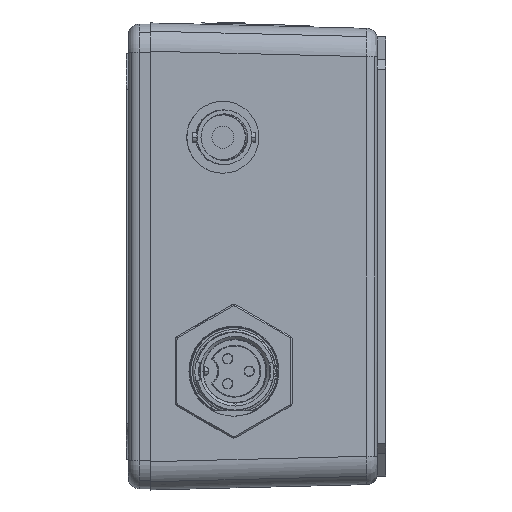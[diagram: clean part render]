
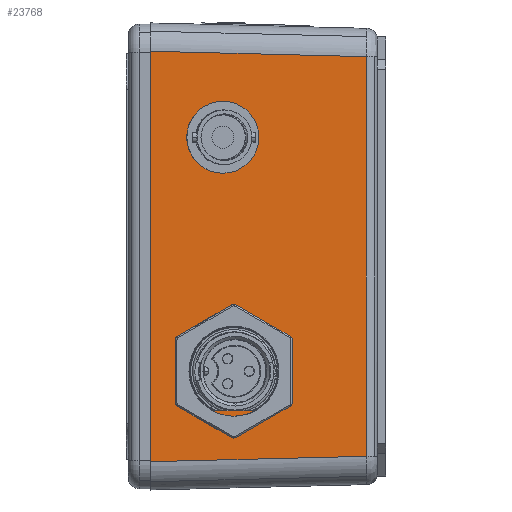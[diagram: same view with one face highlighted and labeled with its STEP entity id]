
A CAD part, left-side view. The second image highlights one B-rep face of the part: STEP entity #23768.
In plain terms, the highlighted planar face has unit normal (-1, -0.025, 0) as drawn and (-1, 0, -0.025) by its records, which use the part's own axes.
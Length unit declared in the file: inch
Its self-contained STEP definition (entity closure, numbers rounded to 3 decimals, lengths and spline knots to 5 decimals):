
#39 = VERTEX_POINT ( 'NONE', #4448 ) ;
#240 = CARTESIAN_POINT ( 'NONE',  ( -2.16085, 0.79705, -0.57482 ) ) ;
#370 = CARTESIAN_POINT ( 'NONE',  ( -2.16858, 0.79705, -0.26492 ) ) ;
#405 = DIRECTION ( 'NONE',  ( -0.025, 0.025, 0.999 ) ) ;
#815 = EDGE_CURVE ( 'NONE', #21775, #13680, #2399, .T. ) ;
#1356 = DIRECTION ( 'NONE',  ( 0.025, 0.025, -0.999 ) ) ;
#2399 = CIRCLE ( 'NONE', #10780, 0.31 ) ;
#2491 = AXIS2_PLACEMENT_3D ( 'NONE', #26995, #6699, #30417 ) ;
#2614 = ORIENTED_EDGE ( 'NONE', *, *, #42794, .F. ) ;
#2907 = CARTESIAN_POINT ( 'NONE',  ( -2.16085, 0.79705, -0.57482 ) ) ;
#4448 = CARTESIAN_POINT ( 'NONE',  ( -2.1378, -1.38786, -1.49803 ) ) ;
#5214 = FACE_BOUND ( 'NONE', #29875, .T. ) ;
#5657 = LINE ( 'NONE', #37288, #40667 ) ;
#6302 = DIRECTION ( 'NONE',  ( -0.025, 0., 1. ) ) ;
#6699 = DIRECTION ( 'NONE',  ( -1., 0., -0.025 ) ) ;
#7282 = CIRCLE ( 'NONE', #43181, 0.21875 ) ;
#7437 = ORIENTED_EDGE ( 'NONE', *, *, #27861, .F. ) ;
#8796 = EDGE_CURVE ( 'NONE', #16659, #27727, #39642, .T. ) ;
#8801 = CARTESIAN_POINT ( 'NONE',  ( -2.16442, 1.07205, -0.43177 ) ) ;
#9617 = LINE ( 'NONE', #8801, #43577 ) ;
#10693 = VERTEX_POINT ( 'NONE', #33523 ) ;
#10780 = AXIS2_PLACEMENT_3D ( 'NONE', #240, #43303, #38711 ) ;
#10866 = VERTEX_POINT ( 'NONE', #17330 ) ;
#11563 = LINE ( 'NONE', #37128, #29609 ) ;
#11802 = ORIENTED_EDGE ( 'NONE', *, *, #43293, .F. ) ;
#13076 = ORIENTED_EDGE ( 'NONE', *, *, #14070, .T. ) ;
#13680 = VERTEX_POINT ( 'NONE', #28085 ) ;
#14070 = EDGE_CURVE ( 'NONE', #21447, #32552, #11563, .T. ) ;
#14861 = CARTESIAN_POINT ( 'NONE',  ( -2.15728, 1.07205, -0.71787 ) ) ;
#14930 = EDGE_CURVE ( 'NONE', #21447, #32552, #7282, .T. ) ;
#14961 = ORIENTED_EDGE ( 'NONE', *, *, #28695, .F. ) ;
#15645 = ORIENTED_EDGE ( 'NONE', *, *, #815, .F. ) ;
#16195 = AXIS2_PLACEMENT_3D ( 'NONE', #33910, #16993, #40714 ) ;
#16659 = VERTEX_POINT ( 'NONE', #370 ) ;
#16939 = CARTESIAN_POINT ( 'NONE',  ( -2.1752, -1.62205, 0. ) ) ;
#16989 = DIRECTION ( 'NONE',  ( -1., 0., -0.025 ) ) ;
#16993 = DIRECTION ( 'NONE',  ( -1., 0., -0.025 ) ) ;
#17091 = EDGE_CURVE ( 'NONE', #10866, #10693, #36896, .T. ) ;
#17330 = CARTESIAN_POINT ( 'NONE',  ( -2.1752, -1.42526, 0. ) ) ;
#18108 = CARTESIAN_POINT ( 'NONE',  ( -2.16442, 1.07205, -0.43177 ) ) ;
#18218 = LINE ( 'NONE', #41016, #26158 ) ;
#20178 = DIRECTION ( 'NONE',  ( 0., -1., 0. ) ) ;
#20323 = DIRECTION ( 'NONE',  ( 0., 1., 0. ) ) ;
#20737 = ORIENTED_EDGE ( 'NONE', *, *, #14930, .F. ) ;
#21447 = VERTEX_POINT ( 'NONE', #27143 ) ;
#21775 = VERTEX_POINT ( 'NONE', #14861 ) ;
#21935 = LINE ( 'NONE', #35195, #28845 ) ;
#23768 = ADVANCED_FACE ( 'NONE', ( #5214, #40230, #32283 ), #30467, .T. ) ;
#23866 = DIRECTION ( 'NONE',  ( 0., 1., 0. ) ) ;
#24624 = EDGE_LOOP ( 'NONE', ( #2614, #36960, #7437, #29888 ) ) ;
#25961 = VERTEX_POINT ( 'NONE', #34976 ) ;
#26158 = VECTOR ( 'NONE', #405, 39.37008 ) ;
#26576 = DIRECTION ( 'NONE',  ( -1., 0., -0.025 ) ) ;
#26995 = CARTESIAN_POINT ( 'NONE',  ( -2.16085, 0.79705, -0.57482 ) ) ;
#27143 = CARTESIAN_POINT ( 'NONE',  ( -2.16749, -0.72177, -0.30865 ) ) ;
#27727 = VERTEX_POINT ( 'NONE', #18108 ) ;
#27834 = VECTOR ( 'NONE', #20323, 39.37008 ) ;
#27861 = EDGE_CURVE ( 'NONE', #10866, #39, #21935, .T. ) ;
#28085 = CARTESIAN_POINT ( 'NONE',  ( -2.15311, 0.79705, -0.88472 ) ) ;
#28695 = EDGE_CURVE ( 'NONE', #27727, #21775, #9617, .T. ) ;
#28845 = VECTOR ( 'NONE', #1356, 39.37008 ) ;
#29609 = VECTOR ( 'NONE', #20178, 39.37008 ) ;
#29875 = EDGE_LOOP ( 'NONE', ( #15645, #14961, #35554, #11802 ) ) ;
#29888 = ORIENTED_EDGE ( 'NONE', *, *, #17091, .T. ) ;
#30417 = DIRECTION ( 'NONE',  ( -0.025, 0., 1. ) ) ;
#30467 = PLANE ( 'NONE',  #16195 ) ;
#32283 = FACE_BOUND ( 'NONE', #33113, .T. ) ;
#32552 = VERTEX_POINT ( 'NONE', #42691 ) ;
#33113 = EDGE_LOOP ( 'NONE', ( #20737, #13076 ) ) ;
#33523 = CARTESIAN_POINT ( 'NONE',  ( -2.1752, 1.42526, 0. ) ) ;
#33910 = CARTESIAN_POINT ( 'NONE',  ( -2.1752, 0., 0. ) ) ;
#34976 = CARTESIAN_POINT ( 'NONE',  ( -2.1378, 1.38786, -1.49803 ) ) ;
#35195 = CARTESIAN_POINT ( 'NONE',  ( -2.17481, -1.42488, -0.01531 ) ) ;
#35268 = EDGE_CURVE ( 'NONE', #39, #25961, #5657, .T. ) ;
#35554 = ORIENTED_EDGE ( 'NONE', *, *, #8796, .F. ) ;
#36896 = LINE ( 'NONE', #16939, #27834 ) ;
#36960 = ORIENTED_EDGE ( 'NONE', *, *, #35268, .F. ) ;
#37128 = CARTESIAN_POINT ( 'NONE',  ( -2.16749, -0.72177, -0.30865 ) ) ;
#37288 = CARTESIAN_POINT ( 'NONE',  ( -2.1378, 0., -1.49803 ) ) ;
#37323 = CARTESIAN_POINT ( 'NONE',  ( -2.16272, -0.82795, -0.49984 ) ) ;
#38711 = DIRECTION ( 'NONE',  ( -0.025, 0., 1. ) ) ;
#39642 = CIRCLE ( 'NONE', #2491, 0.31 ) ;
#40230 = FACE_OUTER_BOUND ( 'NONE', #24624, .T. ) ;
#40478 = CIRCLE ( 'NONE', #41346, 0.31 ) ;
#40667 = VECTOR ( 'NONE', #23866, 39.37008 ) ;
#40706 = DIRECTION ( 'NONE',  ( -0.025, 0., 1. ) ) ;
#40714 = DIRECTION ( 'NONE',  ( -0.025, 0., 1. ) ) ;
#41016 = CARTESIAN_POINT ( 'NONE',  ( -2.17414, 1.4242, -0.04243 ) ) ;
#41346 = AXIS2_PLACEMENT_3D ( 'NONE', #2907, #26576, #6302 ) ;
#42691 = CARTESIAN_POINT ( 'NONE',  ( -2.16749, -0.93414, -0.30865 ) ) ;
#42750 = DIRECTION ( 'NONE',  ( 0.025, 0., -1. ) ) ;
#42794 = EDGE_CURVE ( 'NONE', #25961, #10693, #18218, .T. ) ;
#43181 = AXIS2_PLACEMENT_3D ( 'NONE', #37323, #16989, #40706 ) ;
#43293 = EDGE_CURVE ( 'NONE', #13680, #16659, #40478, .T. ) ;
#43303 = DIRECTION ( 'NONE',  ( -1., 0., -0.025 ) ) ;
#43577 = VECTOR ( 'NONE', #42750, 39.37008 ) ;
